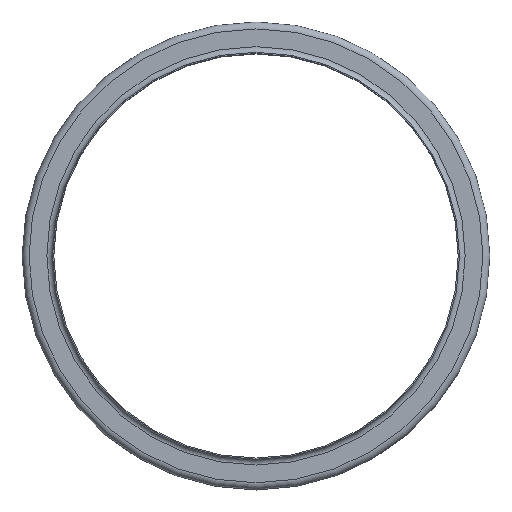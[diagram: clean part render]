
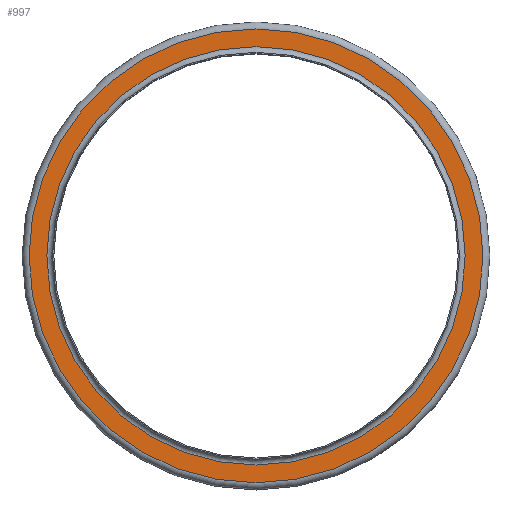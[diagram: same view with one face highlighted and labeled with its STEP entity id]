
A CAD part, top view. The second image highlights one B-rep face of the part: STEP entity #997.
In plain terms, the highlighted planar face has unit normal (0, 0, 1).
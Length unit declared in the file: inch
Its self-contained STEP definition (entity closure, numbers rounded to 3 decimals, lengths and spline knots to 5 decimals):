
#95=FACE_BOUND('',#269,.T.);
#162=FACE_OUTER_BOUND('',#268,.T.);
#268=EDGE_LOOP('',(#769));
#269=EDGE_LOOP('',(#770));
#382=CIRCLE('',#1186,8.274);
#383=CIRCLE('',#1188,8.976);
#463=VERTEX_POINT('',#1810);
#464=VERTEX_POINT('',#1814);
#568=EDGE_CURVE('',#463,#463,#382,.T.);
#569=EDGE_CURVE('',#464,#464,#383,.T.);
#769=ORIENTED_EDGE('',*,*,#569,.F.);
#770=ORIENTED_EDGE('',*,*,#568,.T.);
#851=PLANE('',#1187);
#997=ADVANCED_FACE('',(#162,#95),#851,.T.);
#1186=AXIS2_PLACEMENT_3D('',#1812,#1522,#1523);
#1187=AXIS2_PLACEMENT_3D('',#1813,#1524,#1525);
#1188=AXIS2_PLACEMENT_3D('',#1815,#1526,#1527);
#1522=DIRECTION('center_axis',(0.,0.,-1.));
#1523=DIRECTION('ref_axis',(1.,0.,0.));
#1524=DIRECTION('center_axis',(0.,0.,1.));
#1525=DIRECTION('ref_axis',(1.,0.,0.));
#1526=DIRECTION('center_axis',(0.,0.,-1.));
#1527=DIRECTION('ref_axis',(1.,0.,0.));
#1810=CARTESIAN_POINT('',(8.274,0.,-0.226));
#1812=CARTESIAN_POINT('Origin',(0.,0.,-0.226));
#1813=CARTESIAN_POINT('Origin',(0.,8.976,-0.226));
#1814=CARTESIAN_POINT('',(8.976,0.,-0.226));
#1815=CARTESIAN_POINT('Origin',(0.,0.,-0.226));
